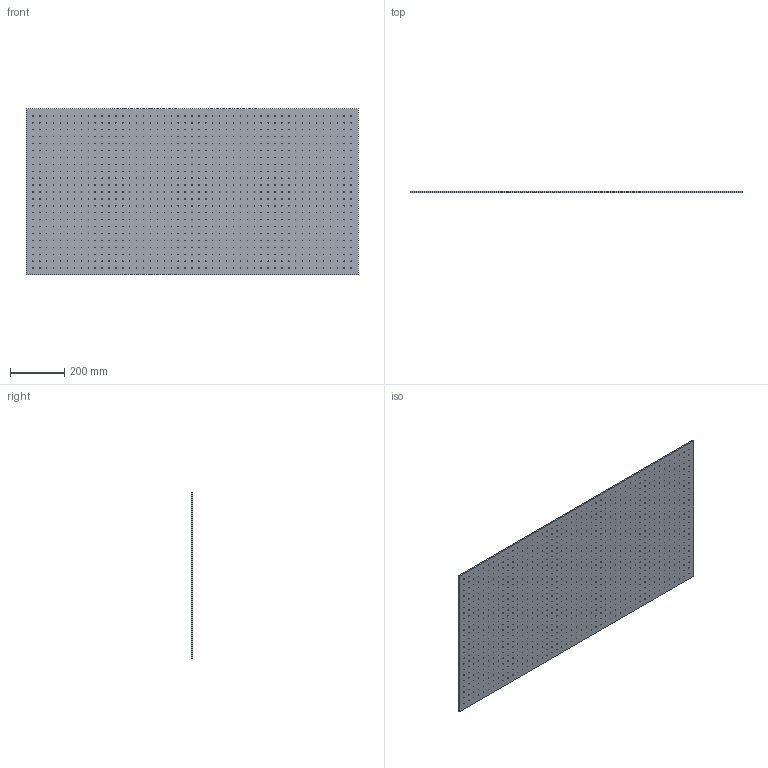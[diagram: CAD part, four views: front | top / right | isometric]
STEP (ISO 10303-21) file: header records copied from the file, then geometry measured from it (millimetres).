
FILE_DESCRIPTION(('STEP AP242 Edition 2','STEP AP242 Edition 2''CAx-IF Rec.Pracs.---Representation and Presentation of Product Manufacturing Information (PMI)---4.0---2014-10-13','STEP AP242 Edition 2''CAx-IF Rec.Pracs.---Representation and Presentation of Product Manufacturing Information (PMI)---4.0---2014-10-13''CAx-IF Rec.Pracs.---3D Tessellated Geometry---0.4---2014-09-14','STEP AP242 Edition 2''CAx-IF Rec.Pracs.---Representation and Presentation of Product Manufacturing Information (PMI)---4.0---2014-10-13''CAx-IF Rec.Pracs.---3D Tessellated Geometry---0.4---2014-09-14''2;1','STEP AP242 Edition 2''CAx-IF Rec.Pracs.---Representation and Presentation of Product Manufacturing Information (PMI)---4.0---2014-10-13''CAx-IF Rec.Pracs.---3D Tessellated Geometry---0.4---2014-09-14''2;1''CAx-IF Rec.Pracs.---User Defined Attributes---1.5---2016-08-15'),'2;1');
FILE_NAME('/vol/tmp/translate-2016734348789797861/Part Studio 1 - table top.step','2026-03-05T22:36:49',(''),(''),'ST-DEVELOPER v20','ONSHAPE BY PTC INC, 1.211',' ');
FILE_SCHEMA(('AP242_MANAGED_MODEL_BASED_3D_ENGINEERING_MIM_LF { 1 0 10303 442 3 1 4 }'));
Length unit declared in the file: metre
Products named in the file (1): table top
Bounding box: 1219.2 x 5 x 609.6 mm (x, y, z)
Volume: 3705423.3 mm3; surface area: 1527413.6 mm2
Topology: 1 solids, 1 shells, 1087 faces, 3255 edges, 2170 vertices
Faces by surface type: cylinder 1081, plane 6
Full cylindrical faces by diameter (mm): 1.587 x667, 1.588 x414
Entity records: 36932 total; most frequent: DIRECTION 6512, CARTESIAN_POINT 5432, ORIENTED_EDGE 4348, EDGE_LOOP 4330, FACE_BOUND 4330, AXIS2_PLACEMENT_3D 3250, EDGE_CURVE 2174, VERTEX_POINT 2170
